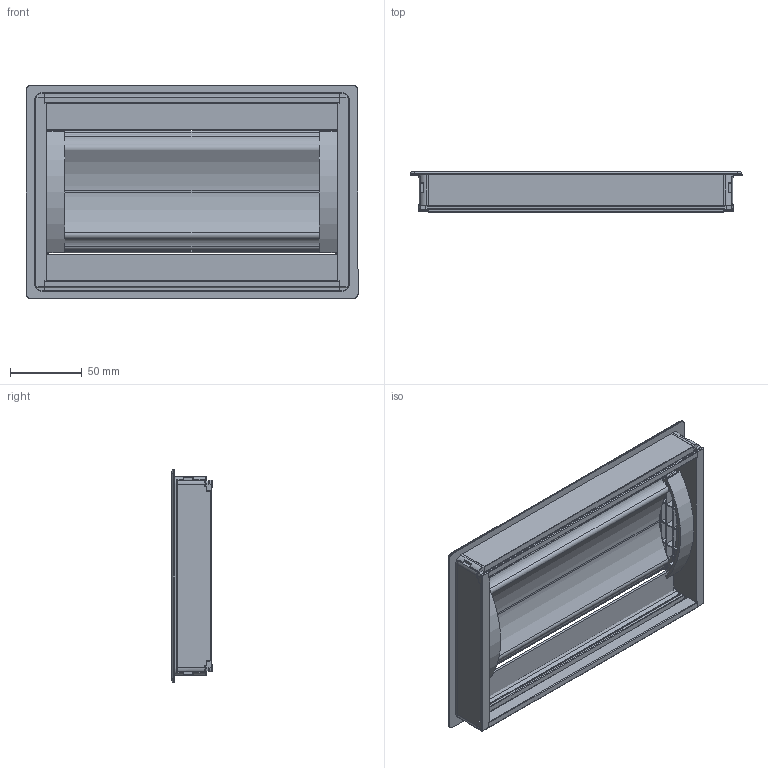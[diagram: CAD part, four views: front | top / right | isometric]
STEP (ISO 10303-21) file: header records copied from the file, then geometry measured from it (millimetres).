
FILE_DESCRIPTION((''),'2;1');
FILE_NAME('P:\Manufacturing\Autocad drawings\Inventor\blocks\PMPY - blocks\PMPY LID 25 - Block.stp','2021-02-19T14:24:37',('ScottReyner'),(''),'Autodesk Inventor 2012','Autodesk Inventor 2012','');
FILE_SCHEMA(('AUTOMOTIVE_DESIGN { 1 0 10303 214 1 1 1 1 }'));
Length unit declared in the file: millimetre
Products named in the file (1): PMPY LID 25 - Block
Bounding box: 231 x 28.1 x 148 mm (x, y, z)
Volume: 237795 mm3; surface area: 172447.8 mm2
Topology: 8 solids, 8 shells, 996 faces, 2647 edges, 1665 vertices
Faces by surface type: plane 450, cylinder 312, cone 70, torus 66, bspline 66, sphere 30, revolution 2
Full cylindrical faces by diameter (mm): 4 x4, 8 x2
Entity records: 33296 total; most frequent: CARTESIAN_POINT 8855, ORIENTED_EDGE 5166, DIRECTION 5120, EDGE_CURVE 2583, AXIS2_PLACEMENT_3D 1860, VERTEX_POINT 1649, VECTOR 1398, LINE 1398
